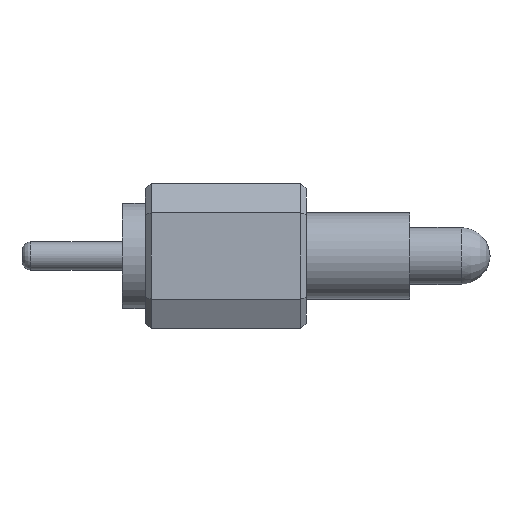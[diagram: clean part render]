
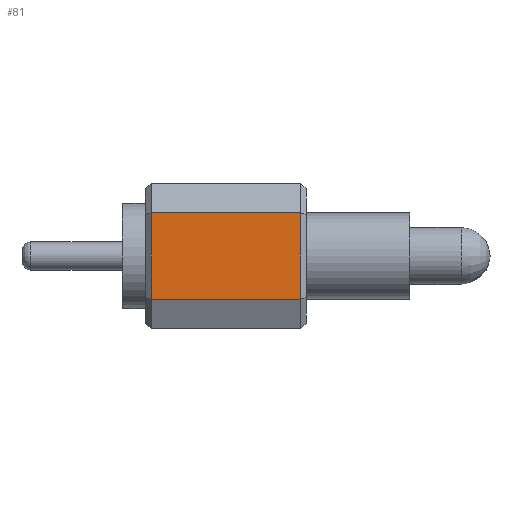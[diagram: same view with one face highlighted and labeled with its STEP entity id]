
A CAD part, front view. The second image highlights one B-rep face of the part: STEP entity #81.
In plain terms, the highlighted planar face has unit normal (0, -1, 0).
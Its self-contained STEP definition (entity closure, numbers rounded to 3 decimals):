
#81 = ADVANCED_FACE('',(#82),#96,.F.);
#82 = FACE_BOUND('',#83,.F.);
#83 = EDGE_LOOP('',(#84,#119,#147,#175));
#84 = ORIENTED_EDGE('',*,*,#85,.T.);
#85 = EDGE_CURVE('',#86,#88,#90,.T.);
#86 = VERTEX_POINT('',#87);
#87 = CARTESIAN_POINT('',(0.5,-1.27,0.75));
#88 = VERTEX_POINT('',#89);
#89 = CARTESIAN_POINT('',(3.1,-1.27,0.75));
#90 = SURFACE_CURVE('',#91,(#95,#107),.PCURVE_S1.);
#91 = LINE('',#92,#93);
#92 = CARTESIAN_POINT('',(0.4,-1.27,0.75));
#93 = VECTOR('',#94,1.);
#94 = DIRECTION('',(1.,0.,0.));
#95 = PCURVE('',#96,#101);
#96 = PLANE('',#97);
#97 = AXIS2_PLACEMENT_3D('',#98,#99,#100);
#98 = CARTESIAN_POINT('',(0.4,-1.27,0.75));
#99 = DIRECTION('',(0.,1.,0.));
#100 = DIRECTION('',(0.,0.,-1.));
#101 = DEFINITIONAL_REPRESENTATION('',(#102),#106);
#102 = LINE('',#103,#104);
#103 = CARTESIAN_POINT('',(0.,0.));
#104 = VECTOR('',#105,1.);
#105 = DIRECTION('',(0.,-1.));
#106 = ( GEOMETRIC_REPRESENTATION_CONTEXT(2) 
PARAMETRIC_REPRESENTATION_CONTEXT() REPRESENTATION_CONTEXT('2D SPACE',''
  ) );
#107 = PCURVE('',#108,#113);
#108 = PLANE('',#109);
#109 = AXIS2_PLACEMENT_3D('',#110,#111,#112);
#110 = CARTESIAN_POINT('',(0.4,-1.,1.27));
#111 = DIRECTION('',(0.,0.887,-0.461));
#112 = DIRECTION('',(0.,-0.461,-0.887));
#113 = DEFINITIONAL_REPRESENTATION('',(#114),#118);
#114 = LINE('',#115,#116);
#115 = CARTESIAN_POINT('',(0.586,0.));
#116 = VECTOR('',#117,1.);
#117 = DIRECTION('',(0.,-1.));
#118 = ( GEOMETRIC_REPRESENTATION_CONTEXT(2) 
PARAMETRIC_REPRESENTATION_CONTEXT() REPRESENTATION_CONTEXT('2D SPACE',''
  ) );
#119 = ORIENTED_EDGE('',*,*,#120,.T.);
#120 = EDGE_CURVE('',#88,#121,#123,.T.);
#121 = VERTEX_POINT('',#122);
#122 = CARTESIAN_POINT('',(3.1,-1.27,-0.75));
#123 = SURFACE_CURVE('',#124,(#128,#135),.PCURVE_S1.);
#124 = LINE('',#125,#126);
#125 = CARTESIAN_POINT('',(3.1,-1.27,0.75));
#126 = VECTOR('',#127,1.);
#127 = DIRECTION('',(0.,0.,-1.));
#128 = PCURVE('',#96,#129);
#129 = DEFINITIONAL_REPRESENTATION('',(#130),#134);
#130 = LINE('',#131,#132);
#131 = CARTESIAN_POINT('',(0.,-2.7));
#132 = VECTOR('',#133,1.);
#133 = DIRECTION('',(1.,0.));
#134 = ( GEOMETRIC_REPRESENTATION_CONTEXT(2) 
PARAMETRIC_REPRESENTATION_CONTEXT() REPRESENTATION_CONTEXT('2D SPACE',''
  ) );
#135 = PCURVE('',#136,#141);
#136 = PLANE('',#137);
#137 = AXIS2_PLACEMENT_3D('',#138,#139,#140);
#138 = CARTESIAN_POINT('',(3.15,-1.22,0.75));
#139 = DIRECTION('',(-0.707,0.707,0.));
#140 = DIRECTION('',(0.,0.,1.));
#141 = DEFINITIONAL_REPRESENTATION('',(#142),#146);
#142 = LINE('',#143,#144);
#143 = CARTESIAN_POINT('',(0.,-0.071));
#144 = VECTOR('',#145,1.);
#145 = DIRECTION('',(-1.,0.));
#146 = ( GEOMETRIC_REPRESENTATION_CONTEXT(2) 
PARAMETRIC_REPRESENTATION_CONTEXT() REPRESENTATION_CONTEXT('2D SPACE',''
  ) );
#147 = ORIENTED_EDGE('',*,*,#148,.F.);
#148 = EDGE_CURVE('',#149,#121,#151,.T.);
#149 = VERTEX_POINT('',#150);
#150 = CARTESIAN_POINT('',(0.5,-1.27,-0.75));
#151 = SURFACE_CURVE('',#152,(#156,#163),.PCURVE_S1.);
#152 = LINE('',#153,#154);
#153 = CARTESIAN_POINT('',(0.4,-1.27,-0.75));
#154 = VECTOR('',#155,1.);
#155 = DIRECTION('',(1.,0.,0.));
#156 = PCURVE('',#96,#157);
#157 = DEFINITIONAL_REPRESENTATION('',(#158),#162);
#158 = LINE('',#159,#160);
#159 = CARTESIAN_POINT('',(1.5,0.));
#160 = VECTOR('',#161,1.);
#161 = DIRECTION('',(0.,-1.));
#162 = ( GEOMETRIC_REPRESENTATION_CONTEXT(2) 
PARAMETRIC_REPRESENTATION_CONTEXT() REPRESENTATION_CONTEXT('2D SPACE',''
  ) );
#163 = PCURVE('',#164,#169);
#164 = PLANE('',#165);
#165 = AXIS2_PLACEMENT_3D('',#166,#167,#168);
#166 = CARTESIAN_POINT('',(0.4,-1.27,-0.75));
#167 = DIRECTION('',(0.,0.887,0.461));
#168 = DIRECTION('',(0.,0.461,-0.887));
#169 = DEFINITIONAL_REPRESENTATION('',(#170),#174);
#170 = LINE('',#171,#172);
#171 = CARTESIAN_POINT('',(0.,0.));
#172 = VECTOR('',#173,1.);
#173 = DIRECTION('',(0.,-1.));
#174 = ( GEOMETRIC_REPRESENTATION_CONTEXT(2) 
PARAMETRIC_REPRESENTATION_CONTEXT() REPRESENTATION_CONTEXT('2D SPACE',''
  ) );
#175 = ORIENTED_EDGE('',*,*,#176,.F.);
#176 = EDGE_CURVE('',#86,#149,#177,.T.);
#177 = SURFACE_CURVE('',#178,(#182,#189),.PCURVE_S1.);
#178 = LINE('',#179,#180);
#179 = CARTESIAN_POINT('',(0.5,-1.27,0.75));
#180 = VECTOR('',#181,1.);
#181 = DIRECTION('',(0.,0.,-1.));
#182 = PCURVE('',#96,#183);
#183 = DEFINITIONAL_REPRESENTATION('',(#184),#188);
#184 = LINE('',#185,#186);
#185 = CARTESIAN_POINT('',(0.,-0.1));
#186 = VECTOR('',#187,1.);
#187 = DIRECTION('',(1.,0.));
#188 = ( GEOMETRIC_REPRESENTATION_CONTEXT(2) 
PARAMETRIC_REPRESENTATION_CONTEXT() REPRESENTATION_CONTEXT('2D SPACE',''
  ) );
#189 = PCURVE('',#190,#195);
#190 = PLANE('',#191);
#191 = AXIS2_PLACEMENT_3D('',#192,#193,#194);
#192 = CARTESIAN_POINT('',(0.45,-1.22,0.75));
#193 = DIRECTION('',(-0.707,-0.707,-0.));
#194 = DIRECTION('',(0.,0.,1.));
#195 = DEFINITIONAL_REPRESENTATION('',(#196),#200);
#196 = LINE('',#197,#198);
#197 = CARTESIAN_POINT('',(0.,-0.071));
#198 = VECTOR('',#199,1.);
#199 = DIRECTION('',(-1.,0.));
#200 = ( GEOMETRIC_REPRESENTATION_CONTEXT(2) 
PARAMETRIC_REPRESENTATION_CONTEXT() REPRESENTATION_CONTEXT('2D SPACE',''
  ) );
